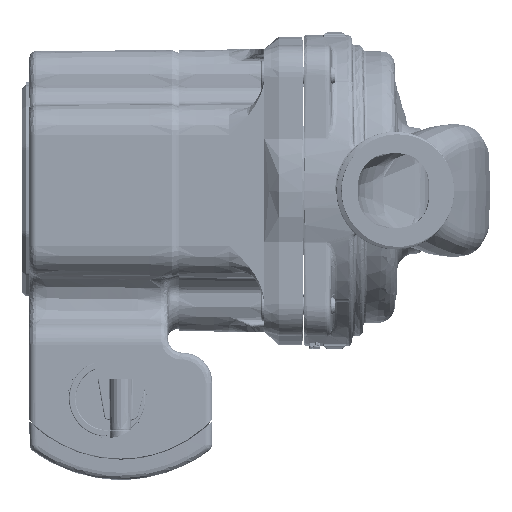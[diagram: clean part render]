
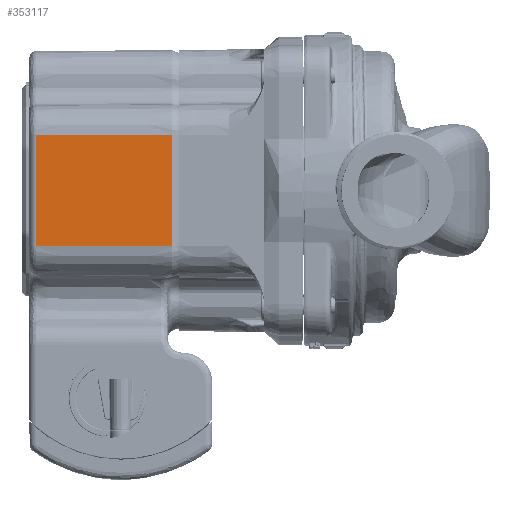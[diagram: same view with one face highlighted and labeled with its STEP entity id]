
A CAD part, left-side view. The second image highlights one B-rep face of the part: STEP entity #353117.
In plain terms, the highlighted planar face has unit normal (-1, 0.009, 0).
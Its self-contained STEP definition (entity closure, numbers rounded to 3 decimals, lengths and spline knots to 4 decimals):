
#2030 = EDGE_CURVE ( 'NONE', #639020, #385159, #567977, .T. ) ;
#17629 = LINE ( 'NONE', #661621, #70073 ) ;
#29047 = DIRECTION ( 'NONE',  ( 0., 0., 1. ) ) ;
#39348 = CARTESIAN_POINT ( 'NONE',  ( -1.5499, 2.1783, -0.6291 ) ) ;
#70073 = VECTOR ( 'NONE', #385161, 39.3701 ) ;
#93812 = VERTEX_POINT ( 'NONE', #524407 ) ;
#125977 = LINE ( 'NONE', #391810, #232890 ) ;
#132594 = EDGE_CURVE ( 'NONE', #385159, #424708, #403594, .T. ) ;
#154497 = CARTESIAN_POINT ( 'NONE',  ( -1.563, 0.6737, 0.6201 ) ) ;
#232890 = VECTOR ( 'NONE', #546035, 39.3701 ) ;
#237376 = CARTESIAN_POINT ( 'NONE',  ( -1.5499, 2.1783, -0.6201 ) ) ;
#300213 = VECTOR ( 'NONE', #449286, 39.3701 ) ;
#301205 = CARTESIAN_POINT ( 'NONE',  ( -1.563, 0.6737, -0.6789 ) ) ;
#308769 = CARTESIAN_POINT ( 'NONE',  ( -1.5499, 2.1783, 0.6201 ) ) ;
#318292 = EDGE_CURVE ( 'NONE', #93812, #639020, #17629, .T. ) ;
#339877 = FACE_OUTER_BOUND ( 'NONE', #409798, .T. ) ;
#353117 = ADVANCED_FACE ( 'NONE', ( #339877 ), #567205, .F. ) ;
#361989 = VECTOR ( 'NONE', #29047, 39.3701 ) ;
#385159 = VERTEX_POINT ( 'NONE', #308769 ) ;
#385161 = DIRECTION ( 'NONE',  ( 0.009, 1., 0. ) ) ;
#391810 = CARTESIAN_POINT ( 'NONE',  ( -1.563, 0.6737, -0.6789 ) ) ;
#392346 = DIRECTION ( 'NONE',  ( 0.009, 1., 0. ) ) ;
#395797 = DIRECTION ( 'NONE',  ( 1., -0.009, 0. ) ) ;
#396075 = ORIENTED_EDGE ( 'NONE', *, *, #606641, .F. ) ;
#403594 = LINE ( 'NONE', #515596, #300213 ) ;
#409798 = EDGE_LOOP ( 'NONE', ( #396075, #662330, #641826, #498882 ) ) ;
#424708 = VERTEX_POINT ( 'NONE', #154497 ) ;
#449286 = DIRECTION ( 'NONE',  ( -0.009, -1., 0. ) ) ;
#478832 = AXIS2_PLACEMENT_3D ( 'NONE', #301205, #395797, #392346 ) ;
#498882 = ORIENTED_EDGE ( 'NONE', *, *, #318292, .F. ) ;
#515596 = CARTESIAN_POINT ( 'NONE',  ( -1.5564, 1.426, 0.6201 ) ) ;
#524407 = CARTESIAN_POINT ( 'NONE',  ( -1.563, 0.6737, -0.6201 ) ) ;
#546035 = DIRECTION ( 'NONE',  ( 0., 0., -1. ) ) ;
#567205 = PLANE ( 'NONE',  #478832 ) ;
#567977 = LINE ( 'NONE', #39348, #361989 ) ;
#606641 = EDGE_CURVE ( 'NONE', #424708, #93812, #125977, .T. ) ;
#639020 = VERTEX_POINT ( 'NONE', #237376 ) ;
#641826 = ORIENTED_EDGE ( 'NONE', *, *, #2030, .F. ) ;
#661621 = CARTESIAN_POINT ( 'NONE',  ( -1.563, 0.6737, -0.6201 ) ) ;
#662330 = ORIENTED_EDGE ( 'NONE', *, *, #132594, .F. ) ;
